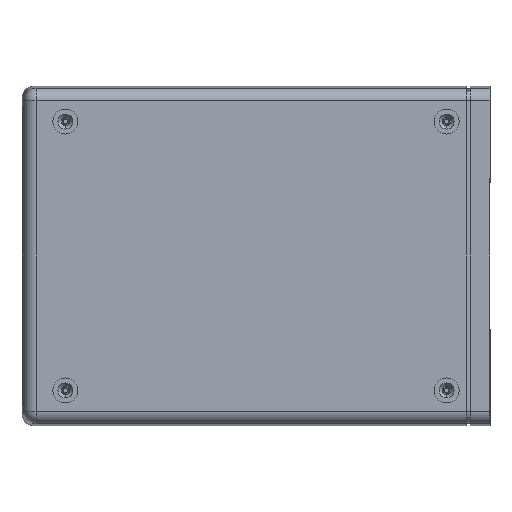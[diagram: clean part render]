
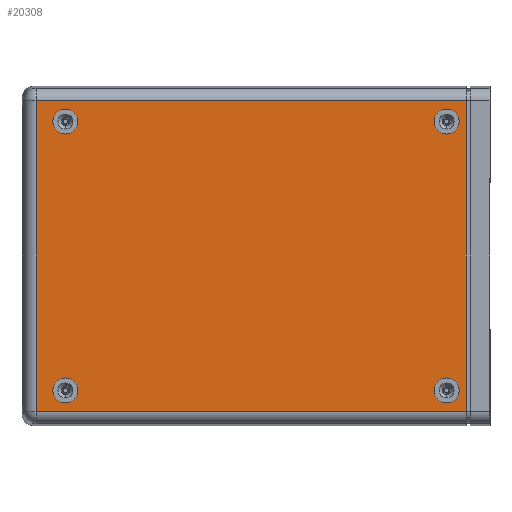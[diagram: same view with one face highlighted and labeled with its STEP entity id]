
A CAD part, front view. The second image highlights one B-rep face of the part: STEP entity #20308.
In plain terms, the highlighted planar face has unit normal (0, -1, 0).
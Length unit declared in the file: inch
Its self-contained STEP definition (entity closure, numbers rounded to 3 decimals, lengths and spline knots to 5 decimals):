
#998 = ORIENTED_EDGE ( 'NONE', *, *, #11135, .T. ) ;
#2139 = CARTESIAN_POINT ( 'NONE',  ( -3.044, -0.895, 2.3475 ) ) ;
#2381 = VERTEX_POINT ( 'NONE', #3752 ) ;
#2892 = VECTOR ( 'NONE', #22469, 39.37008 ) ;
#3318 = CIRCLE ( 'NONE', #26282, 0.2 ) ;
#3331 = VERTEX_POINT ( 'NONE', #14151 ) ;
#3752 = CARTESIAN_POINT ( 'NONE',  ( -3.51261, -0.895, -2.4758 ) ) ;
#3805 = CARTESIAN_POINT ( 'NONE',  ( -3.044, -0.895, -1.9475 ) ) ;
#4222 = CARTESIAN_POINT ( 'NONE',  ( 3.35685, -0.895, -2.4758 ) ) ;
#4700 = ORIENTED_EDGE ( 'NONE', *, *, #6786, .F. ) ;
#4840 = CIRCLE ( 'NONE', #29104, 0.2 ) ;
#5001 = VERTEX_POINT ( 'NONE', #8296 ) ;
#6275 = AXIS2_PLACEMENT_3D ( 'NONE', #19058, #19018, #18993 ) ;
#6447 = ORIENTED_EDGE ( 'NONE', *, *, #14161, .T. ) ;
#6744 = FACE_OUTER_BOUND ( 'NONE', #15615, .T. ) ;
#6763 = CARTESIAN_POINT ( 'NONE',  ( -3.044, -0.895, 1.9475 ) ) ;
#6786 = EDGE_CURVE ( 'NONE', #19115, #32630, #15090, .T. ) ;
#6797 = VECTOR ( 'NONE', #20399, 39.37008 ) ;
#7063 = VERTEX_POINT ( 'NONE', #3805 ) ;
#7168 = PLANE ( 'NONE',  #8048 ) ;
#7213 = CIRCLE ( 'NONE', #28072, 0.2 ) ;
#7406 = AXIS2_PLACEMENT_3D ( 'NONE', #14297, #15973, #15966 ) ;
#7604 = FACE_BOUND ( 'NONE', #15999, .T. ) ;
#8048 = AXIS2_PLACEMENT_3D ( 'NONE', #34359, #26153, #9826 ) ;
#8179 = EDGE_LOOP ( 'NONE', ( #13135, #4700 ) ) ;
#8296 = CARTESIAN_POINT ( 'NONE',  ( -3.51261, -0.895, 2.4758 ) ) ;
#8633 = EDGE_CURVE ( 'NONE', #10407, #7063, #23169, .T. ) ;
#9826 = DIRECTION ( 'NONE',  ( 0., 0., 1. ) ) ;
#10407 = VERTEX_POINT ( 'NONE', #25323 ) ;
#10929 = DIRECTION ( 'NONE',  ( 0., 0., 1. ) ) ;
#10959 = DIRECTION ( 'NONE',  ( 0., 1., 0. ) ) ;
#11001 = CARTESIAN_POINT ( 'NONE',  ( -3.044, -0.895, -2.1475 ) ) ;
#11135 = EDGE_CURVE ( 'NONE', #11420, #31246, #4840, .T. ) ;
#11241 = ORIENTED_EDGE ( 'NONE', *, *, #14112, .F. ) ;
#11420 = VERTEX_POINT ( 'NONE', #12063 ) ;
#11648 = AXIS2_PLACEMENT_3D ( 'NONE', #18168, #18159, #18123 ) ;
#12063 = CARTESIAN_POINT ( 'NONE',  ( 3.044, -0.895, -2.3475 ) ) ;
#13135 = ORIENTED_EDGE ( 'NONE', *, *, #13910, .F. ) ;
#13490 = CIRCLE ( 'NONE', #7406, 0.2 ) ;
#13612 = EDGE_CURVE ( 'NONE', #3331, #5001, #34545, .T. ) ;
#13650 = EDGE_CURVE ( 'NONE', #5001, #2381, #26349, .T. ) ;
#13758 = EDGE_CURVE ( 'NONE', #2381, #33734, #31949, .T. ) ;
#13863 = EDGE_CURVE ( 'NONE', #3331, #33734, #28422, .T. ) ;
#13875 = FACE_BOUND ( 'NONE', #8179, .T. ) ;
#13910 = EDGE_CURVE ( 'NONE', #32630, #19115, #20302, .T. ) ;
#13974 = EDGE_CURVE ( 'NONE', #7063, #10407, #25904, .T. ) ;
#14023 = EDGE_CURVE ( 'NONE', #29957, #33331, #3318, .T. ) ;
#14112 = EDGE_CURVE ( 'NONE', #33331, #29957, #7213, .T. ) ;
#14151 = CARTESIAN_POINT ( 'NONE',  ( 3.35685, -0.895, 2.4758 ) ) ;
#14161 = EDGE_CURVE ( 'NONE', #31246, #11420, #13490, .T. ) ;
#14297 = CARTESIAN_POINT ( 'NONE',  ( 3.044, -0.895, -2.1475 ) ) ;
#14357 = VECTOR ( 'NONE', #24031, 39.37008 ) ;
#14822 = DIRECTION ( 'NONE',  ( 0., 0., -1. ) ) ;
#14848 = DIRECTION ( 'NONE',  ( 0., -1., 0. ) ) ;
#14894 = CARTESIAN_POINT ( 'NONE',  ( 3.044, -0.895, 2.1475 ) ) ;
#15090 = CIRCLE ( 'NONE', #18051, 0.2 ) ;
#15161 = DIRECTION ( 'NONE',  ( 0., 0., -1. ) ) ;
#15207 = DIRECTION ( 'NONE',  ( 0., -1., 0. ) ) ;
#15248 = CARTESIAN_POINT ( 'NONE',  ( -3.044, -0.895, 2.1475 ) ) ;
#15615 = EDGE_LOOP ( 'NONE', ( #35298, #27455, #20072, #32798 ) ) ;
#15966 = DIRECTION ( 'NONE',  ( 0., 0., 1. ) ) ;
#15973 = DIRECTION ( 'NONE',  ( 0., 1., 0. ) ) ;
#15999 = EDGE_LOOP ( 'NONE', ( #28679, #21860 ) ) ;
#16936 = DIRECTION ( 'NONE',  ( 0., 0., -1. ) ) ;
#17013 = DIRECTION ( 'NONE',  ( 0., -1., 0. ) ) ;
#17056 = CARTESIAN_POINT ( 'NONE',  ( 3.044, -0.895, 2.1475 ) ) ;
#18051 = AXIS2_PLACEMENT_3D ( 'NONE', #15248, #15207, #15161 ) ;
#18123 = DIRECTION ( 'NONE',  ( 0., 0., 1. ) ) ;
#18159 = DIRECTION ( 'NONE',  ( 0., 1., 0. ) ) ;
#18168 = CARTESIAN_POINT ( 'NONE',  ( -3.044, -0.895, -2.1475 ) ) ;
#18993 = DIRECTION ( 'NONE',  ( 0., 0., -1. ) ) ;
#19018 = DIRECTION ( 'NONE',  ( 0., -1., 0. ) ) ;
#19058 = CARTESIAN_POINT ( 'NONE',  ( -3.044, -0.895, 2.1475 ) ) ;
#19115 = VERTEX_POINT ( 'NONE', #2139 ) ;
#20072 = ORIENTED_EDGE ( 'NONE', *, *, #13758, .T. ) ;
#20302 = CIRCLE ( 'NONE', #6275, 0.2 ) ;
#20308 = ADVANCED_FACE ( 'NONE', ( #6744, #13875, #7604, #28370, #34910 ), #7168, .F. ) ;
#20311 = CARTESIAN_POINT ( 'NONE',  ( 3.35685, -0.895, 2.4758 ) ) ;
#20399 = DIRECTION ( 'NONE',  ( 0., 0., -1. ) ) ;
#21860 = ORIENTED_EDGE ( 'NONE', *, *, #13974, .T. ) ;
#22469 = DIRECTION ( 'NONE',  ( 1., 0., 0. ) ) ;
#22493 = CARTESIAN_POINT ( 'NONE',  ( 3.044, -0.895, 1.9475 ) ) ;
#22638 = CARTESIAN_POINT ( 'NONE',  ( 3.737, -0.895, -2.4758 ) ) ;
#22811 = ORIENTED_EDGE ( 'NONE', *, *, #14023, .F. ) ;
#23169 = CIRCLE ( 'NONE', #24966, 0.2 ) ;
#23357 = CARTESIAN_POINT ( 'NONE',  ( -3.51261, -0.895, -2.6656 ) ) ;
#23485 = DIRECTION ( 'NONE',  ( 0., 0., -1. ) ) ;
#24031 = DIRECTION ( 'NONE',  ( -1., 0., 0. ) ) ;
#24286 = CARTESIAN_POINT ( 'NONE',  ( -3.70575, -0.895, 2.4758 ) ) ;
#24966 = AXIS2_PLACEMENT_3D ( 'NONE', #11001, #10959, #10929 ) ;
#25323 = CARTESIAN_POINT ( 'NONE',  ( -3.044, -0.895, -2.3475 ) ) ;
#25681 = EDGE_LOOP ( 'NONE', ( #998, #6447 ) ) ;
#25904 = CIRCLE ( 'NONE', #11648, 0.2 ) ;
#26153 = DIRECTION ( 'NONE',  ( 0., 1., 0. ) ) ;
#26242 = CARTESIAN_POINT ( 'NONE',  ( 3.044, -0.895, 2.3475 ) ) ;
#26282 = AXIS2_PLACEMENT_3D ( 'NONE', #17056, #17013, #16936 ) ;
#26349 = LINE ( 'NONE', #23357, #32801 ) ;
#27455 = ORIENTED_EDGE ( 'NONE', *, *, #13650, .T. ) ;
#27666 = CARTESIAN_POINT ( 'NONE',  ( 3.044, -0.895, -1.9475 ) ) ;
#28072 = AXIS2_PLACEMENT_3D ( 'NONE', #14894, #14848, #14822 ) ;
#28370 = FACE_BOUND ( 'NONE', #30959, .T. ) ;
#28422 = LINE ( 'NONE', #20311, #6797 ) ;
#28679 = ORIENTED_EDGE ( 'NONE', *, *, #8633, .T. ) ;
#29104 = AXIS2_PLACEMENT_3D ( 'NONE', #35085, #35305, #34689 ) ;
#29957 = VERTEX_POINT ( 'NONE', #22493 ) ;
#30959 = EDGE_LOOP ( 'NONE', ( #22811, #11241 ) ) ;
#31246 = VERTEX_POINT ( 'NONE', #27666 ) ;
#31949 = LINE ( 'NONE', #22638, #2892 ) ;
#32630 = VERTEX_POINT ( 'NONE', #6763 ) ;
#32798 = ORIENTED_EDGE ( 'NONE', *, *, #13863, .F. ) ;
#32801 = VECTOR ( 'NONE', #23485, 39.37008 ) ;
#33331 = VERTEX_POINT ( 'NONE', #26242 ) ;
#33734 = VERTEX_POINT ( 'NONE', #4222 ) ;
#34359 = CARTESIAN_POINT ( 'NONE',  ( -3.737, -0.895, 2.7125 ) ) ;
#34545 = LINE ( 'NONE', #24286, #14357 ) ;
#34689 = DIRECTION ( 'NONE',  ( 0., 0., 1. ) ) ;
#34910 = FACE_BOUND ( 'NONE', #25681, .T. ) ;
#35085 = CARTESIAN_POINT ( 'NONE',  ( 3.044, -0.895, -2.1475 ) ) ;
#35298 = ORIENTED_EDGE ( 'NONE', *, *, #13612, .T. ) ;
#35305 = DIRECTION ( 'NONE',  ( 0., 1., 0. ) ) ;
